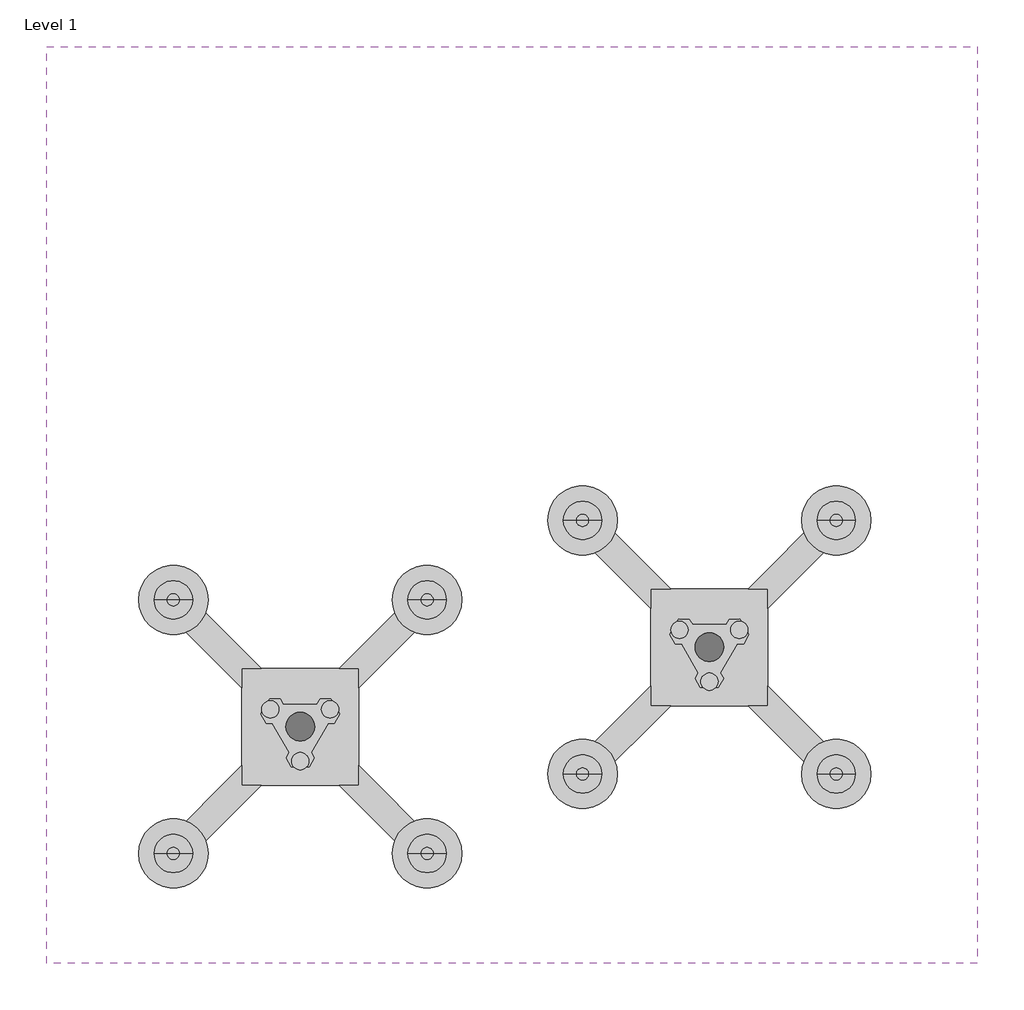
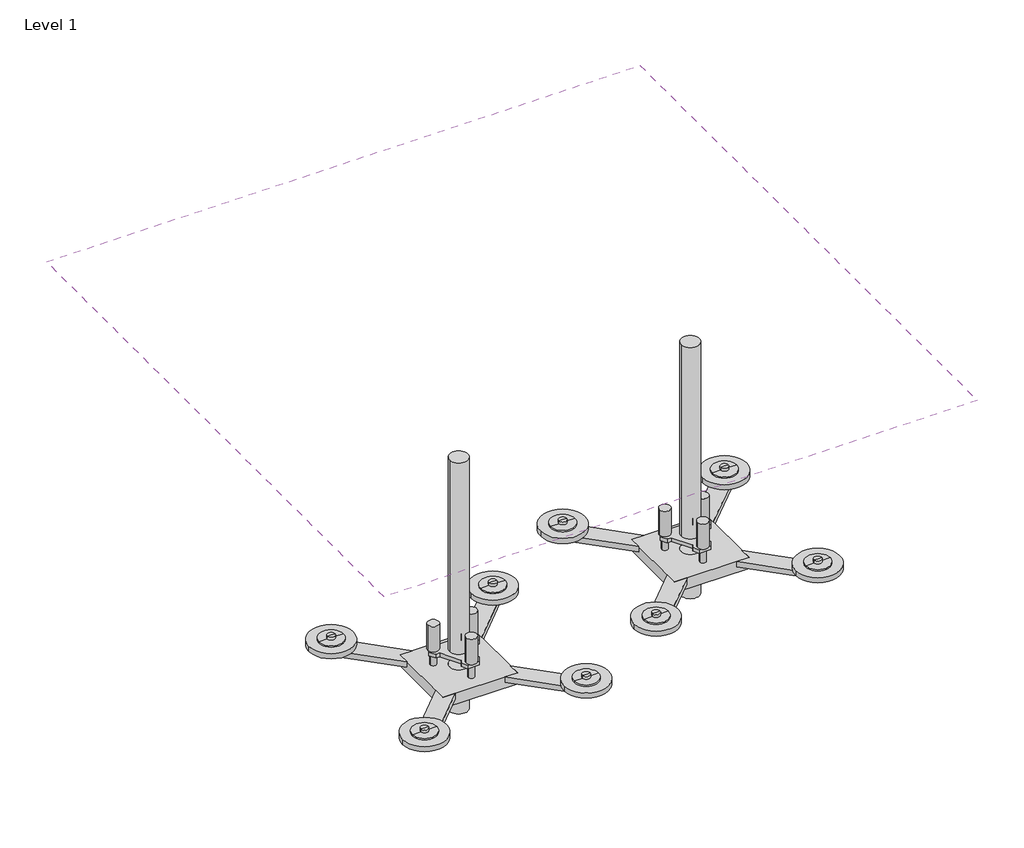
# One storey: 2 proxies, 1 covering.
"""IFC4 building model written with IfcOpenShell, lengths in millimetres."""

import ifcopenshell
import ifcopenshell.guid

model = None  # the IFC model being written
_history = None  # IfcOwnerHistory: only IFC2X3 demands one
_inside = {}  # id of a spatial element -> (the spatial element, [elements in it])
_under = {}  # id of a project, library or spatial element -> (it, [spatial elements below it])
_declared = {}  # id of a project -> (the project, [libraries it declares])
_typed = {}  # id of a type object -> (the type object, [elements of that type])
_made_of = {}  # id of a material, layer set ... -> (it, [elements and type objects made of it])


def new_model(schema):
    """Start an empty IFC model of exactly this schema.

    Asked for "IFC4X3", IfcOpenShell would pick the latest addendum, in which some entities
    have other attributes; the version numbers below select the first issue.
    IFC2X3 requires an IfcOwnerHistory on every rooted entity: one is made here for all.
    """
    global model, _history
    if schema == "IFC4X3":
        model = ifcopenshell.file(schema_version=(4, 3, 0, 0))
    else:
        model = ifcopenshell.file(schema=schema)
    _inside.clear()
    _under.clear()
    _declared.clear()
    _typed.clear()
    _made_of.clear()
    _history = None
    if model.schema == "IFC2X3":
        org = make("IfcOrganization", Name="unknown")
        user = make(
            "IfcPersonAndOrganization",
            ThePerson=make("IfcPerson", FamilyName="unknown"),
            TheOrganization=org,
        )
        app = make(
            "IfcApplication",
            ApplicationDeveloper=org,
            Version="unknown",
            ApplicationFullName="unknown",
            ApplicationIdentifier="unknown",
        )
        _history = make(
            "IfcOwnerHistory",
            OwningUser=user,
            OwningApplication=app,
            ChangeAction="ADDED",
            CreationDate=0,
        )
    return model


def make(cls, **values):
    """One entity of the class cls with the attributes given. An attribute that is None is left unset."""
    return model.create_entity(
        cls, **{name: value for name, value in values.items() if value is not None}
    )


def rooted(cls, **values):
    """An entity with a GlobalId (a new one), such as an element, a storey or a relation."""
    return make(cls, GlobalId=ifcopenshell.guid.new(), OwnerHistory=_history, **values)


def si_unit(unit_type, name, prefix=None):
    """IfcSIUnit, for example si_unit("LENGTHUNIT", "METRE", prefix="MILLI")."""
    return make("IfcSIUnit", UnitType=unit_type, Prefix=prefix, Name=name)


def assignment(units):
    """IfcUnitAssignment: the units of a project."""
    return None if units is None else make("IfcUnitAssignment", Units=units)


def point(xyz):
    """IfcCartesianPoint."""
    return None if xyz is None else make("IfcCartesianPoint", Coordinates=xyz)


def direction(xyz):
    """IfcDirection."""
    return None if xyz is None else make("IfcDirection", DirectionRatios=xyz)


def frame(location, z_axis=None, x_axis=None):
    """IfcAxis2Placement3D, a coordinate frame: its origin and axes. An axis left out is left unset."""
    return make(
        "IfcAxis2Placement3D",
        Location=point(location),
        Axis=direction(z_axis),
        RefDirection=direction(x_axis),
    )


def frame_2d(location, x_axis=None):
    """IfcAxis2Placement2D, a coordinate frame in the plane: its origin and x axis."""
    return make(
        "IfcAxis2Placement2D", Location=point(location), RefDirection=direction(x_axis)
    )


def origin():
    """The frame at (0, 0, 0) with its axes left unset."""
    return frame((0.0, 0.0, 0.0))


def origin_with_axes():
    """The frame at (0, 0, 0) with the z axis (0, 0, 1) and the x axis (1, 0, 0) written out."""
    return frame((0.0, 0.0, 0.0), z_axis=(0.0, 0.0, 1.0), x_axis=(1.0, 0.0, 0.0))


def origin_2d():
    """The frame at (0, 0) in the plane with its x axis left unset."""
    return frame_2d((0.0, 0.0))


def place(relative_to, where):
    """IfcLocalPlacement: puts the frame where relative to a parent placement (None: the world)."""
    return make(
        "IfcLocalPlacement", PlacementRelTo=relative_to, RelativePlacement=where
    )


def context(
    kind, dimensions, precision=None, world=None, true_north=None, identifier=None
):
    """IfcGeometricRepresentationContext, for example the 3D "Model" context."""
    return make(
        "IfcGeometricRepresentationContext",
        ContextIdentifier=identifier,
        ContextType=kind,
        CoordinateSpaceDimension=dimensions,
        Precision=precision,
        WorldCoordinateSystem=world,
        TrueNorth=true_north,
    )


def project(units=None, contexts=None):
    """IfcProject with its units and contexts."""
    return rooted(
        "IfcProject",
        Name="project",
        RepresentationContexts=contexts,
        UnitsInContext=assignment(units),
    )


def spatial(cls, under=None, at=None, **own):
    """A site, building, storey or space (cls), placed at a placement, below another one or the project."""
    s = rooted(cls, ObjectPlacement=at, **own)
    if under is not None:
        _under.setdefault(under.id(), (under, []))[1].append(s)
    return s


def polyline(points):
    """IfcPolyline through the points."""
    return make("IfcPolyline", Points=[point(p) for p in points])


def circle_curve(where, radius):
    """IfcCircle in the frame where."""
    return make("IfcCircle", Position=where, Radius=radius)


def trimmed(basis, trim1, trim2, sense, master):
    """IfcTrimmedCurve: the piece of a basis curve between two trims."""
    return make(
        "IfcTrimmedCurve",
        BasisCurve=basis,
        Trim1=trim1,
        Trim2=trim2,
        SenseAgreement=sense,
        MasterRepresentation=master,
    )


def segment(curve, same_sense, transition):
    """IfcCompositeCurveSegment."""
    return make(
        "IfcCompositeCurveSegment",
        Transition=transition,
        SameSense=same_sense,
        ParentCurve=curve,
    )


def composite_curve(segments, self_intersect=None):
    """IfcCompositeCurve: segments joined end to end."""
    return make("IfcCompositeCurve", Segments=segments, SelfIntersect=self_intersect)


def outline(outer, holes=None, kind="AREA"):
    """IfcArbitraryClosedProfileDef: a profile drawn as a closed curve; with holes, ...WithVoids."""
    if holes is None:
        return make("IfcArbitraryClosedProfileDef", ProfileType=kind, OuterCurve=outer)
    return make(
        "IfcArbitraryProfileDefWithVoids",
        ProfileType=kind,
        OuterCurve=outer,
        InnerCurves=holes,
    )


def extrude(swept, where, along, depth):
    """IfcExtrudedAreaSolid: the profile swept, set in the frame where, extruded along a direction by depth."""
    return make(
        "IfcExtrudedAreaSolid",
        SweptArea=swept,
        Position=where,
        ExtrudedDirection=direction(along),
        Depth=depth,
    )


def shape(context_of_items, identifier, shape_type, items):
    """IfcShapeRepresentation: the items that make up one representation, for example the "Body"."""
    return make(
        "IfcShapeRepresentation",
        ContextOfItems=context_of_items,
        RepresentationIdentifier=identifier,
        RepresentationType=shape_type,
        Items=items,
    )


def source(mapping_origin, context_of_items, identifier, shape_type, items):
    """IfcRepresentationMap: a shape defined once, which mapped items show again and again."""
    return make(
        "IfcRepresentationMap",
        MappingOrigin=mapping_origin,
        MappedRepresentation=shape(context_of_items, identifier, shape_type, items),
    )


def transform(
    local_origin,
    x_axis=None,
    y_axis=None,
    z_axis=None,
    scale=None,
    scale2=None,
    scale3=None,
    uniform=True,
):
    """IfcCartesianTransformationOperator3D, or its non-uniform kind. x_axis, y_axis, z_axis: its Axis1, 2, 3."""
    if uniform:
        return make(
            "IfcCartesianTransformationOperator3D",
            Axis1=direction(x_axis),
            Axis2=direction(y_axis),
            LocalOrigin=point(local_origin),
            Scale=scale,
            Axis3=direction(z_axis),
        )
    return make(
        "IfcCartesianTransformationOperator3DnonUniform",
        Axis1=direction(x_axis),
        Axis2=direction(y_axis),
        LocalOrigin=point(local_origin),
        Scale=scale,
        Axis3=direction(z_axis),
        Scale2=scale2,
        Scale3=scale3,
    )


def mapped(mapping_source, mapping_target):
    """IfcMappedItem: shows the shape of a source again, moved by a transform."""
    return make(
        "IfcMappedItem", MappingSource=mapping_source, MappingTarget=mapping_target
    )


def made_of(thing, what):
    """Note that an element or type object is made of a material, layer set ...; save() writes the relation."""
    if what is not None:
        _made_of.setdefault(what.id(), (what, []))[1].append(thing)
    return thing


def element(
    cls,
    number,
    at=None,
    inside=None,
    cuts=None,
    type_object=None,
    material=None,
    context=None,
    identifier="Body",
    shape_type=None,
    held_by="IfcProductDefinitionShape",
    body=None,
    shapes=None,
    **own,
):
    """One element of the class cls, such as IfcWall. Its Tag is "e" and its number.

    at: its placement. inside: the storey or other place that contains it. cuts: it is an
    opening in that element (IfcRelVoidsElement). A single representation is given by context,
    identifier, shape_type and body (its items); several are given by shapes. held_by: the class
    of the entity that holds the representations. save() writes the other relations.
    """
    e = rooted(cls, Tag="e%d" % number, ObjectPlacement=at, **own)
    if body is not None:
        shapes = [shape(context, identifier, shape_type, body)]
    if shapes is not None:
        e.Representation = make(held_by, Representations=shapes)
    if inside is not None:
        _inside.setdefault(inside.id(), (inside, []))[1].append(e)
    if cuts is not None:
        rooted(
            "IfcRelVoidsElement", RelatingBuildingElement=cuts, RelatedOpeningElement=e
        )
    if type_object is not None:
        _typed.setdefault(type_object.id(), (type_object, []))[1].append(e)
    return made_of(e, material)


def aggregate(whole, parts):
    """IfcRelAggregates: a whole, such as a stair, and the parts it consists of."""
    return rooted("IfcRelAggregates", RelatingObject=whole, RelatedObjects=parts)


def save(model, path):
    """Write the relations noted so far, then the file.

    IfcRelAggregates (storeys below a building ...), IfcRelContainedInSpatialStructure (elements
    in a storey), IfcRelDefinesByType, IfcRelAssociatesMaterial and IfcRelDeclares: one each for
    every whole, place, type object, material and project.
    """
    for whole, parts in _under.values():
        aggregate(whole, parts)
    for where, things in _inside.values():
        rooted(
            "IfcRelContainedInSpatialStructure",
            RelatedElements=things,
            RelatingStructure=where,
        )
    for kind, things in _typed.values():
        rooted("IfcRelDefinesByType", RelatedObjects=things, RelatingType=kind)
    for what, things in _made_of.values():
        rooted("IfcRelAssociatesMaterial", RelatedObjects=things, RelatingMaterial=what)
    for by, libraries in _declared.values():
        rooted("IfcRelDeclares", RelatingContext=by, RelatedDefinitions=libraries)
    model.write(path)


def plane_surface(at):
    """IfcPlane: the flat surface through the origin of the frame at, square to its z axis."""
    return make("IfcPlane", Position=at)


def cylinder_surface(at, radius):
    """IfcCylindricalSurface: all points at the distance radius from the z axis of the frame at."""
    return make("IfcCylindricalSurface", Position=at, Radius=radius)


def advanced_brep(points, edges, surfaces, faces):
    """IfcAdvancedBrep: a solid bounded by faces that lie on surfaces and meet in shared edges.

    An edge is (start, end): straight between two places in points (the first is 0);
    or (start, end, curve); or (start, end, curve, False) where it runs against its curve.
    A face is (place in surfaces, loops), or (place, loops, False) where it looks against
    its surface's normal. A loop lists edges by number (the first is 1), with a minus sign
    where the edge is run from its end to its start. The first loop is the outer one.
    """
    corners = [point(p) for p in points]
    vertices = [make("IfcVertexPoint", VertexGeometry=c) for c in corners]
    made = []
    for start, end, *more in edges:
        made.append(
            make(
                "IfcEdgeCurve",
                EdgeStart=vertices[start],
                EdgeEnd=vertices[end],
                EdgeGeometry=more[0] if more else make("IfcPolyline", Points=[corners[start], corners[end]]),
                SameSense=more[1] if len(more) > 1 else True,
            )
        )
    hull = []
    for where, loops, *sense in faces:
        bounds = []
        for j, loop in enumerate(loops):
            ring = [make("IfcOrientedEdge", EdgeElement=made[abs(k) - 1], Orientation=k > 0) for k in loop]
            bounds.append(
                make(
                    "IfcFaceOuterBound" if j == 0 else "IfcFaceBound",
                    Bound=make("IfcEdgeLoop", EdgeList=ring),
                    Orientation=True,
                )
            )
        hull.append(make("IfcAdvancedFace", Bounds=bounds, FaceSurface=surfaces[where], SameSense=sense[0] if sense else True))
    return make("IfcAdvancedBrep", Outer=make("IfcClosedShell", CfsFaces=hull))


def black_d4b0cc76(model_context):
    return source(origin(), model_context, "Body", "SolidModel", [
        extrude(outline(composite_curve([segment(trimmed(circle_curve(frame_2d((-54.61, -31.75)), 15.748), [point((-38.862, -31.75))], [point((-70.358, -31.75))], False, "CARTESIAN"), True, "CONTINUOUS"), segment(trimmed(circle_curve(frame_2d((-54.61, -31.75)), 15.748), [point((-70.358, -31.75))], [point((-38.862, -31.75))], False, "CARTESIAN"), True, "CONTINUOUS")], self_intersect=False)), frame((0.0, 0.0, 504.5964), z_axis=(0.0, 0.0, 1.0), x_axis=(1.0, 0.0, 0.0)), (0.0, 0.0, 1.0), 76.7),
        extrude(outline(composite_curve([segment(trimmed(circle_curve(frame_2d((54.61, -31.75)), 15.748), [point((70.358, -31.75))], [point((38.862, -31.75))], False, "CARTESIAN"), True, "CONTINUOUS"), segment(trimmed(circle_curve(frame_2d((54.61, -31.75)), 15.748), [point((38.862, -31.75))], [point((70.358, -31.75))], False, "CARTESIAN"), True, "CONTINUOUS")], self_intersect=False)), frame((0.0, 0.0, 504.5964), z_axis=(0.0, 0.0, 1.0), x_axis=(1.0, 0.0, 0.0)), (0.0, 0.0, 1.0), 76.7),
        extrude(outline(composite_curve([segment(trimmed(circle_curve(frame_2d((0.0, 62.992)), 15.748), [point((15.748, 62.992))], [point((-15.748, 62.992))], False, "CARTESIAN"), True, "CONTINUOUS"), segment(trimmed(circle_curve(frame_2d((0.0, 62.992)), 15.748), [point((-15.748, 62.992))], [point((15.748, 62.992))], False, "CARTESIAN"), True, "CONTINUOUS")], self_intersect=False)), frame((0.0, 0.0, 504.5964), z_axis=(0.0, 0.0, 1.0), x_axis=(1.0, 0.0, 0.0)), (0.0, 0.0, 1.0), 76.7),
        extrude(outline(polyline([(50.8142512, -6.244031), (62.4871689, -6.2876395), (72.0757117, -22.9848674), (55.6338464, -51.2648756), (36.379434, -51.1929436), (30.6362371, -41.1918965), (-30.6362371, -41.1918965), (-36.379434, -51.1929436), (-55.6338464, -51.2648756), (-72.0757117, -22.9848674), (-62.4871689, -6.2876395), (-50.8142512, -6.244031), (-20.1646255, 46.9295057), (-25.9716199, 57.0039659), (-16.3561441, 73.6856983), (16.3561441, 73.6856983), (25.9716199, 57.0039659), (20.1646255, 46.9295057), (50.8142512, -6.244031)]), holes=[composite_curve([segment(trimmed(circle_curve(origin_2d(), 26.162), [point((26.162, 0.0))], [point((-26.162, 0.0))], True, "CARTESIAN"), True, "CONTINUOUS"), segment(trimmed(circle_curve(origin_2d(), 26.162), [point((-26.162, 0.0))], [point((26.162, 0.0))], True, "CARTESIAN"), True, "CONTINUOUS")], self_intersect=False)]), frame((0.0, 0.0, 581.2964), z_axis=(0.0, 0.0, 1.0), x_axis=(1.0, 0.0, 0.0)), (0.0, 0.0, 1.0), 11.0706),
        extrude(outline(composite_curve([segment(trimmed(circle_curve(frame_2d((54.61, -31.75)), 8.89), [point((63.5, -31.75))], [point((45.72, -31.75))], False, "CARTESIAN"), True, "CONTINUOUS"), segment(trimmed(circle_curve(frame_2d((54.61, -31.75)), 8.89), [point((45.72, -31.75))], [point((63.5, -31.75))], False, "CARTESIAN"), True, "CONTINUOUS")], self_intersect=False)), frame((0.0, 0.0, 592.367), z_axis=(0.0, 0.0, 1.0), x_axis=(1.0, 0.0, 0.0)), (0.0, 0.0, 1.0), 35.433),
        extrude(outline(composite_curve([segment(trimmed(circle_curve(frame_2d((-54.61, -31.75)), 8.89), [point((-45.72, -31.75))], [point((-63.5, -31.75))], False, "CARTESIAN"), True, "CONTINUOUS"), segment(trimmed(circle_curve(frame_2d((-54.61, -31.75)), 8.89), [point((-63.5, -31.75))], [point((-45.72, -31.75))], False, "CARTESIAN"), True, "CONTINUOUS")], self_intersect=False)), frame((0.0, 0.0, 592.367), z_axis=(0.0, 0.0, 1.0), x_axis=(1.0, 0.0, 0.0)), (0.0, 0.0, 1.0), 35.433),
        extrude(outline(composite_curve([segment(trimmed(circle_curve(frame_2d((0.0, 62.992)), 8.89), [point((8.89, 62.992))], [point((-8.89, 62.992))], False, "CARTESIAN"), True, "CONTINUOUS"), segment(trimmed(circle_curve(frame_2d((0.0, 62.992)), 8.89), [point((-8.89, 62.992))], [point((8.89, 62.992))], False, "CARTESIAN"), True, "CONTINUOUS")], self_intersect=False)), frame((0.0, 0.0, 592.367), z_axis=(0.0, 0.0, 1.0), x_axis=(1.0, 0.0, 0.0)), (0.0, 0.0, 1.0), 35.433),
        advanced_brep(
        [(266.9349858, -231.902, 612.56), (196.8690142, -231.902, 612.56), (231.902, -231.902, 612.56), (266.9349858, -231.902, 608.3804289), (196.8690142, -231.902, 608.3804289), (243.0084026, -231.902, 608.3804289), (220.7955974, -231.902, 608.3804289), (243.0084026, -231.902, 599.86), (220.7955974, -231.902, 599.86), (231.902, -231.902, 599.86)],
        [
            (0, 1, circle_curve(frame((231.902, -231.902, 612.56), z_axis=(0.0, 0.0, 1.0), x_axis=(-1.0, 0.0, 0.0)), 35.0329858)),
            (1, 2),
            (2, 0),
            (1, 0, circle_curve(frame((231.902, -231.902, 612.56), z_axis=(0.0, 0.0, 1.0), x_axis=(-1.0, 0.0, 0.0)), 35.0329858)),
            (3, 4, circle_curve(frame((231.902, -231.902, 608.3804289), z_axis=(0.0, 0.0, 1.0), x_axis=(-1.0, 0.0, 0.0)), 35.0329858)),
            (4, 1),
            (0, 3),
            (4, 3, circle_curve(frame((231.902, -231.902, 608.3804289), z_axis=(0.0, 0.0, 1.0), x_axis=(-1.0, 0.0, 0.0)), 35.0329858)),
            (5, 6, circle_curve(frame((231.902, -231.902, 608.3804289), z_axis=(0.0, 0.0, 1.0), x_axis=(-1.0, 0.0, 0.0)), 11.1064026)),
            (6, 4),
            (3, 5),
            (6, 5, circle_curve(frame((231.902, -231.902, 608.3804289), z_axis=(0.0, 0.0, 1.0), x_axis=(-1.0, 0.0, 0.0)), 11.1064026)),
            (7, 8, circle_curve(frame((231.902, -231.902, 599.86), z_axis=(0.0, 0.0, 1.0), x_axis=(-1.0, 0.0, 0.0)), 11.1064026)),
            (8, 6),
            (5, 7),
            (8, 7, circle_curve(frame((231.902, -231.902, 599.86), z_axis=(0.0, 0.0, 1.0), x_axis=(-1.0, 0.0, 0.0)), 11.1064026)),
            (9, 8),
            (7, 9),
        ],
        [
            plane_surface(frame((231.902, -231.902, 612.56), z_axis=(0.0, 0.0, 1.0), x_axis=(-1.0, 0.0, 0.0))),
            cylinder_surface(frame((231.902, -231.902, 599.86), z_axis=(0.0, 0.0, -1.0), x_axis=(-1.0, 0.0, 0.0)), 35.0329858),
            plane_surface(frame((231.902, -231.902, 608.3804289), z_axis=(0.0, 0.0, -1.0), x_axis=(-1.0, 0.0, 0.0))),
            cylinder_surface(frame((231.902, -231.902, 599.86), z_axis=(0.0, 0.0, -1.0), x_axis=(-1.0, 0.0, 0.0)), 11.1064026),
            plane_surface(frame((231.902, -231.902, 599.86), z_axis=(0.0, 0.0, -1.0), x_axis=(-1.0, 0.0, 0.0))),
        ],
        [
            (0, [[1, 2, 3]]),
            (0, [[4, -3, -2]]),
            (1, [[5, 6, -1, 7]]),
            (1, [[8, -7, -4, -6]]),
            (2, [[9, 10, -5, 11]]),
            (2, [[12, -11, -8, -10]]),
            (3, [[13, 14, -9, 15]]),
            (3, [[16, -15, -12, -14]]),
            (4, [[17, -13, 18]]),
            (4, [[-18, -16, -17]]),
        ],
    ),
        advanced_brep(
        [(-231.902, -231.902, 612.56), (-196.8690142, -231.902, 612.56), (-266.9349858, -231.902, 612.56), (-196.8690142, -231.902, 608.3804289), (-266.9349858, -231.902, 608.3804289), (-220.7955974, -231.902, 608.3804289), (-243.0084026, -231.902, 608.3804289), (-220.7955974, -231.902, 599.86), (-243.0084026, -231.902, 599.86), (-231.902, -231.902, 599.86)],
        [
            (0, 1),
            (1, 2, circle_curve(frame((-231.902, -231.902, 612.56), z_axis=(0.0, 0.0, 1.0), x_axis=(1.0, 0.0, 0.0)), 35.0329858)),
            (2, 0),
            (2, 1, circle_curve(frame((-231.902, -231.902, 612.56), z_axis=(0.0, 0.0, 1.0), x_axis=(1.0, 0.0, 0.0)), 35.0329858)),
            (1, 3),
            (3, 4, circle_curve(frame((-231.902, -231.902, 608.3804289), z_axis=(0.0, 0.0, 1.0), x_axis=(1.0, 0.0, 0.0)), 35.0329858)),
            (4, 2),
            (4, 3, circle_curve(frame((-231.902, -231.902, 608.3804289), z_axis=(0.0, 0.0, 1.0), x_axis=(1.0, 0.0, 0.0)), 35.0329858)),
            (3, 5),
            (5, 6, circle_curve(frame((-231.902, -231.902, 608.3804289), z_axis=(0.0, 0.0, 1.0), x_axis=(1.0, 0.0, 0.0)), 11.1064026)),
            (6, 4),
            (6, 5, circle_curve(frame((-231.902, -231.902, 608.3804289), z_axis=(0.0, 0.0, 1.0), x_axis=(1.0, 0.0, 0.0)), 11.1064026)),
            (5, 7),
            (7, 8, circle_curve(frame((-231.902, -231.902, 599.86), z_axis=(0.0, 0.0, 1.0), x_axis=(1.0, 0.0, 0.0)), 11.1064026)),
            (8, 6),
            (8, 7, circle_curve(frame((-231.902, -231.902, 599.86), z_axis=(0.0, 0.0, 1.0), x_axis=(1.0, 0.0, 0.0)), 11.1064026)),
            (7, 9),
            (9, 8),
        ],
        [
            plane_surface(frame((-231.902, -231.902, 612.56), z_axis=(0.0, 0.0, 1.0), x_axis=(1.0, 0.0, 0.0))),
            cylinder_surface(frame((-231.902, -231.902, 599.86), z_axis=(0.0, 0.0, 1.0), x_axis=(1.0, 0.0, 0.0)), 35.0329858),
            plane_surface(frame((-231.902, -231.902, 608.3804289), z_axis=(0.0, 0.0, -1.0), x_axis=(1.0, 0.0, 0.0))),
            cylinder_surface(frame((-231.902, -231.902, 599.86), z_axis=(0.0, 0.0, 1.0), x_axis=(1.0, 0.0, 0.0)), 11.1064026),
            plane_surface(frame((-231.902, -231.902, 599.86), z_axis=(0.0, 0.0, -1.0), x_axis=(1.0, 0.0, 0.0))),
        ],
        [
            (0, [[1, 2, 3]]),
            (0, [[-3, 4, -1]]),
            (1, [[-2, 5, 6, 7]]),
            (1, [[-4, -7, 8, -5]]),
            (2, [[-6, 9, 10, 11]]),
            (2, [[-8, -11, 12, -9]]),
            (3, [[-10, 13, 14, 15]]),
            (3, [[-12, -15, 16, -13]]),
            (4, [[-14, 17, 18]]),
            (4, [[-16, -18, -17]]),
        ],
    ),
        advanced_brep(
        [(231.902, 231.902, 612.56), (196.8690142, 231.902, 612.56), (266.9349858, 231.902, 612.56), (196.8690142, 231.902, 608.3804289), (266.9349858, 231.902, 608.3804289), (220.7955974, 231.902, 608.3804289), (243.0084026, 231.902, 608.3804289), (220.7955974, 231.902, 599.86), (243.0084026, 231.902, 599.86), (231.902, 231.902, 599.86)],
        [
            (0, 1),
            (1, 2, circle_curve(frame((231.902, 231.902, 612.56), z_axis=(0.0, 0.0, 1.0), x_axis=(-1.0, 0.0, 0.0)), 35.0329858)),
            (2, 0),
            (2, 1, circle_curve(frame((231.902, 231.902, 612.56), z_axis=(0.0, 0.0, 1.0), x_axis=(-1.0, 0.0, 0.0)), 35.0329858)),
            (1, 3),
            (3, 4, circle_curve(frame((231.902, 231.902, 608.3804289), z_axis=(0.0, 0.0, 1.0), x_axis=(-1.0, 0.0, 0.0)), 35.0329858)),
            (4, 2),
            (4, 3, circle_curve(frame((231.902, 231.902, 608.3804289), z_axis=(0.0, 0.0, 1.0), x_axis=(-1.0, 0.0, 0.0)), 35.0329858)),
            (3, 5),
            (5, 6, circle_curve(frame((231.902, 231.902, 608.3804289), z_axis=(0.0, 0.0, 1.0), x_axis=(-1.0, 0.0, 0.0)), 11.1064026)),
            (6, 4),
            (6, 5, circle_curve(frame((231.902, 231.902, 608.3804289), z_axis=(0.0, 0.0, 1.0), x_axis=(-1.0, 0.0, 0.0)), 11.1064026)),
            (5, 7),
            (7, 8, circle_curve(frame((231.902, 231.902, 599.86), z_axis=(0.0, 0.0, 1.0), x_axis=(-1.0, 0.0, 0.0)), 11.1064026)),
            (8, 6),
            (8, 7, circle_curve(frame((231.902, 231.902, 599.86), z_axis=(0.0, 0.0, 1.0), x_axis=(-1.0, 0.0, 0.0)), 11.1064026)),
            (7, 9),
            (9, 8),
        ],
        [
            plane_surface(frame((231.902, 231.902, 612.56), z_axis=(0.0, 0.0, 1.0), x_axis=(-1.0, 0.0, 0.0))),
            cylinder_surface(frame((231.902, 231.902, 599.86), z_axis=(0.0, 0.0, 1.0), x_axis=(-1.0, 0.0, 0.0)), 35.0329858),
            plane_surface(frame((231.902, 231.902, 608.3804289), z_axis=(0.0, 0.0, -1.0), x_axis=(-1.0, 0.0, 0.0))),
            cylinder_surface(frame((231.902, 231.902, 599.86), z_axis=(0.0, 0.0, 1.0), x_axis=(-1.0, 0.0, 0.0)), 11.1064026),
            plane_surface(frame((231.902, 231.902, 599.86), z_axis=(0.0, 0.0, -1.0), x_axis=(-1.0, 0.0, 0.0))),
        ],
        [
            (0, [[1, 2, 3]]),
            (0, [[-3, 4, -1]]),
            (1, [[-2, 5, 6, 7]]),
            (1, [[-4, -7, 8, -5]]),
            (2, [[-6, 9, 10, 11]]),
            (2, [[-8, -11, 12, -9]]),
            (3, [[-10, 13, 14, 15]]),
            (3, [[-12, -15, 16, -13]]),
            (4, [[-14, 17, 18]]),
            (4, [[-16, -18, -17]]),
        ],
    ),
        advanced_brep(
        [(-266.9349858, 231.902, 612.56), (-196.8690142, 231.902, 612.56), (-231.902, 231.902, 612.56), (-266.9349858, 231.902, 608.3804289), (-196.8690142, 231.902, 608.3804289), (-243.0084026, 231.902, 608.3804289), (-220.7955974, 231.902, 608.3804289), (-243.0084026, 231.902, 599.86), (-220.7955974, 231.902, 599.86), (-231.902, 231.902, 599.86)],
        [
            (0, 1, circle_curve(frame((-231.902, 231.902, 612.56), z_axis=(0.0, 0.0, 1.0), x_axis=(1.0, 0.0, 0.0)), 35.0329858)),
            (1, 2),
            (2, 0),
            (1, 0, circle_curve(frame((-231.902, 231.902, 612.56), z_axis=(0.0, 0.0, 1.0), x_axis=(1.0, 0.0, 0.0)), 35.0329858)),
            (3, 4, circle_curve(frame((-231.902, 231.902, 608.3804289), z_axis=(0.0, 0.0, 1.0), x_axis=(1.0, 0.0, 0.0)), 35.0329858)),
            (4, 1),
            (0, 3),
            (4, 3, circle_curve(frame((-231.902, 231.902, 608.3804289), z_axis=(0.0, 0.0, 1.0), x_axis=(1.0, 0.0, 0.0)), 35.0329858)),
            (5, 6, circle_curve(frame((-231.902, 231.902, 608.3804289), z_axis=(0.0, 0.0, 1.0), x_axis=(1.0, 0.0, 0.0)), 11.1064026)),
            (6, 4),
            (3, 5),
            (6, 5, circle_curve(frame((-231.902, 231.902, 608.3804289), z_axis=(0.0, 0.0, 1.0), x_axis=(1.0, 0.0, 0.0)), 11.1064026)),
            (7, 8, circle_curve(frame((-231.902, 231.902, 599.86), z_axis=(0.0, 0.0, 1.0), x_axis=(1.0, 0.0, 0.0)), 11.1064026)),
            (8, 6),
            (5, 7),
            (8, 7, circle_curve(frame((-231.902, 231.902, 599.86), z_axis=(0.0, 0.0, 1.0), x_axis=(1.0, 0.0, 0.0)), 11.1064026)),
            (9, 8),
            (7, 9),
        ],
        [
            plane_surface(frame((-231.902, 231.902, 612.56), z_axis=(0.0, 0.0, 1.0), x_axis=(1.0, 0.0, 0.0))),
            cylinder_surface(frame((-231.902, 231.902, 599.86), z_axis=(0.0, 0.0, -1.0), x_axis=(1.0, 0.0, 0.0)), 35.0329858),
            plane_surface(frame((-231.902, 231.902, 608.3804289), z_axis=(0.0, 0.0, -1.0), x_axis=(1.0, 0.0, 0.0))),
            cylinder_surface(frame((-231.902, 231.902, 599.86), z_axis=(0.0, 0.0, -1.0), x_axis=(1.0, 0.0, 0.0)), 11.1064026),
            plane_surface(frame((-231.902, 231.902, 599.86), z_axis=(0.0, 0.0, -1.0), x_axis=(1.0, 0.0, 0.0))),
        ],
        [
            (0, [[1, 2, 3]]),
            (0, [[4, -3, -2]]),
            (1, [[5, 6, -1, 7]]),
            (1, [[8, -7, -4, -6]]),
            (2, [[9, 10, -5, 11]]),
            (2, [[12, -11, -8, -10]]),
            (3, [[13, 14, -9, 15]]),
            (3, [[16, -15, -12, -14]]),
            (4, [[17, -13, 18]]),
            (4, [[-18, -16, -17]]),
        ],
    ),
        extrude(outline(composite_curve([segment(trimmed(circle_curve(frame_2d((-231.902, 231.902)), 63.5), [point((-168.402, 231.902))], [point((-295.402, 231.902))], False, "CARTESIAN"), True, "CONTINUOUS"), segment(trimmed(circle_curve(frame_2d((-231.902, 231.902)), 63.5), [point((-295.402, 231.902))], [point((-168.402, 231.902))], False, "CARTESIAN"), True, "CONTINUOUS")], self_intersect=False)), frame((0.0, 0.0, 612.56), z_axis=(0.0, 0.0, 1.0), x_axis=(1.0, 0.0, 0.0)), (0.0, 0.0, 1.0), 15.24),
        extrude(outline(composite_curve([segment(trimmed(circle_curve(frame_2d((231.902, 231.902)), 63.5), [point((295.402, 231.902))], [point((168.402, 231.902))], False, "CARTESIAN"), True, "CONTINUOUS"), segment(trimmed(circle_curve(frame_2d((231.902, 231.902)), 63.5), [point((168.402, 231.902))], [point((295.402, 231.902))], False, "CARTESIAN"), True, "CONTINUOUS")], self_intersect=False)), frame((0.0, 0.0, 612.56), z_axis=(0.0, 0.0, 1.0), x_axis=(1.0, 0.0, 0.0)), (0.0, 0.0, 1.0), 15.24),
        extrude(outline(composite_curve([segment(trimmed(circle_curve(frame_2d((-231.902, -231.902)), 63.5), [point((-168.402, -231.902))], [point((-295.402, -231.902))], False, "CARTESIAN"), True, "CONTINUOUS"), segment(trimmed(circle_curve(frame_2d((-231.902, -231.902)), 63.5), [point((-295.402, -231.902))], [point((-168.402, -231.902))], False, "CARTESIAN"), True, "CONTINUOUS")], self_intersect=False)), frame((0.0, 0.0, 612.56), z_axis=(0.0, 0.0, 1.0), x_axis=(1.0, 0.0, 0.0)), (0.0, 0.0, 1.0), 15.24),
        extrude(outline(composite_curve([segment(trimmed(circle_curve(frame_2d((231.902, -231.902)), 63.5), [point((295.402, -231.902))], [point((168.402, -231.902))], False, "CARTESIAN"), True, "CONTINUOUS"), segment(trimmed(circle_curve(frame_2d((231.902, -231.902)), 63.5), [point((168.402, -231.902))], [point((295.402, -231.902))], False, "CARTESIAN"), True, "CONTINUOUS")], self_intersect=False)), frame((0.0, 0.0, 612.56), z_axis=(0.0, 0.0, 1.0), x_axis=(1.0, 0.0, 0.0)), (0.0, 0.0, 1.0), 15.24),
        extrude(outline(polyline([(-215.5261469, -251.4471714), (-251.4471714, -215.5261469), (-106.9467, -71.0256755), (-106.9467, -106.9467), (-71.0256755, -106.9467), (-215.5261469, -251.4471714)])), frame((0.0, 0.0, 627.8), z_axis=(0.0, 0.0, 1.0), x_axis=(1.0, 0.0, 0.0)), (0.0, 0.0, 1.0), 16.3),
        extrude(outline(polyline([(-214.7097735, 250.6307979), (-71.0256755, 106.9467), (-106.9467, 106.9467), (-106.9467, 71.0256755), (-250.6307979, 214.7097735), (-214.7097735, 250.6307979)])), frame((0.0, 0.0, 627.8), z_axis=(0.0, 0.0, 1.0), x_axis=(1.0, 0.0, 0.0)), (0.0, 0.0, 1.0), 16.3),
        extrude(outline(polyline([(250.6307979, 214.7097735), (106.9467, 71.0256755), (106.9467, 106.9467), (71.0256755, 106.9467), (214.7097735, 250.6307979), (250.6307979, 214.7097735)])), frame((0.0, 0.0, 627.8), z_axis=(0.0, 0.0, 1.0), x_axis=(1.0, 0.0, 0.0)), (0.0, 0.0, 1.0), 16.3),
        extrude(outline(polyline([(215.5261469, -251.4471714), (71.0256755, -106.9467), (106.9467, -106.9467), (106.9467, -71.0256755), (251.4471714, -215.5261469), (215.5261469, -251.4471714)])), frame((0.0, 0.0, 627.8), z_axis=(0.0, 0.0, 1.0), x_axis=(1.0, 0.0, 0.0)), (0.0, 0.0, 1.0), 16.3),
        extrude(outline(polyline([(106.9467, -106.9467), (-106.9467, -106.9467), (-106.9467, 106.9467), (106.9467, 106.9467), (106.9467, -106.9467)]), holes=[composite_curve([segment(trimmed(circle_curve(origin_2d(), 26.162), [point((-26.162, 0.0))], [point((26.162, 0.0))], True, "CARTESIAN"), True, "CONTINUOUS"), segment(trimmed(circle_curve(origin_2d(), 26.162), [point((26.162, 0.0))], [point((-26.162, 0.0))], True, "CARTESIAN"), True, "CONTINUOUS")], self_intersect=False)]), frame((0.0, 0.0, 627.8), z_axis=(0.0, 0.0, 1.0), x_axis=(1.0, 0.0, 0.0)), (0.0, 0.0, 1.0), 32.6),
        extrude(outline(composite_curve([segment(trimmed(circle_curve(origin_2d(), 26.162), [point((-26.162, 0.0))], [point((26.162, 0.0))], False, "CARTESIAN"), True, "CONTINUOUS"), segment(trimmed(circle_curve(origin_2d(), 26.162), [point((26.162, 0.0))], [point((-26.162, 0.0))], False, "CARTESIAN"), True, "CONTINUOUS")], self_intersect=False)), frame((0.0, 0.0, 627.8), z_axis=(0.0, 0.0, 1.0), x_axis=(1.0, 0.0, 0.0)), (0.0, 0.0, 1.0), 134.2),
        extrude(outline(composite_curve([segment(trimmed(circle_curve(origin_2d(), 26.162), [point((-26.162, 0.0))], [point((26.162, 0.0))], False, "CARTESIAN"), True, "CONTINUOUS"), segment(trimmed(circle_curve(origin_2d(), 26.162), [point((26.162, 0.0))], [point((-26.162, 0.0))], False, "CARTESIAN"), True, "CONTINUOUS")], self_intersect=False)), origin_with_axes(), (0.0, 0.0, 1.0), 592.367),
    ])


model = new_model("IFC4")

# Units and contexts
model_context = context("Model", 3, world=origin())
ifc_project = project(units=[si_unit("LENGTHUNIT", "METRE", prefix="MILLI")], contexts=[model_context])

# Site, building, storey
site = spatial("IfcSite", under=ifc_project)
building = spatial("IfcBuilding", under=site)
storey = spatial("IfcBuildingStorey", under=building, Name="Level 1", Elevation=0.0)

# Proxies
placement = place(None, origin())
black_shape = black_d4b0cc76(model_context)
element("IfcBuildingElementProxy", 1, Name="Vibration_Isolator-Ceiling-Chief-Large_Venue : Black", ObjectType="Vibration_Isolator-Ceiling-Chief-Large_Venue : Black", at=placement, inside=storey, context=model_context, shape_type="MappedRepresentation", body=[
    mapped(black_shape, transform((1617.90156, 1625.4802218, 1524.0), x_axis=(1.0, 0.0, 0.0), y_axis=(0.0, -1.0, 0.0), z_axis=(0.0, 0.0, -1.0))),
])
element("IfcBuildingElementProxy", 2, Name="Vibration_Isolator-Ceiling-Chief-Large_Venue : White", ObjectType="Vibration_Isolator-Ceiling-Chief-Large_Venue : White", at=placement, inside=storey, context=model_context, shape_type="MappedRepresentation", body=[
    mapped(black_shape, transform((2365.9014738, 1770.8766763, 1524.0), x_axis=(1.0, 0.0, 0.0), y_axis=(0.0, -1.0, 0.0), z_axis=(0.0, 0.0, -1.0))),
])

# Covering
element("IfcCovering", 3, ObjectType="2' x 4' ACT System", at=placement, inside=storey, context=model_context, shape_type="SweptSolid", body=[
    extrude(outline(polyline([(2855.9454013, 2869.4154734), (2855.9454013, 1193.0154734), (1154.1454013, 1193.0154734), (1154.1454013, 2869.4154734), (2855.9454013, 2869.4154734)])), frame((0.0, 0.0, 1524.0), z_axis=(0.0, 0.0, 1.0), x_axis=(1.0, 0.0, 0.0)), (0.0, 0.0, 1.0), 57.15),
])

save(model, "model.ifc")
